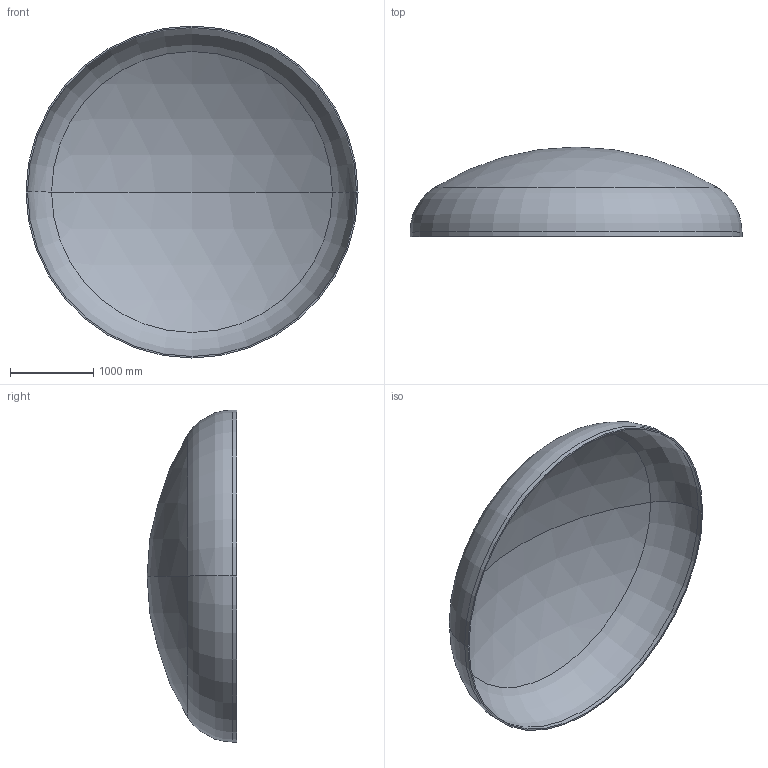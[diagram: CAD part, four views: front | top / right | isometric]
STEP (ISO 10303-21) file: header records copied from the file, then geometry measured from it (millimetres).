
FILE_DESCRIPTION (( 'STEP AP203' ), '1' );
FILE_NAME ('DIN 28013 Korbbogenform_-_Boden DIN 28013 - 4000 x 55 - I - s=18.step', '2016-07-01T22:06:19', ( '' ), ( '' ), 'SwSTEP 2.0', 'SolidWorks 2013', '' );
FILE_SCHEMA (( 'CONFIG_CONTROL_DESIGN' ));
Length unit declared in the file: millimetre
Products named in the file (1): DIN 28013 Korbbogenform_-_Boden DIN 28013 - 4000 x 55 - I - s=18
Bounding box: 4000 x 1079.02 x 4000 mm (x, y, z)
Volume: 323717855.2 mm3; surface area: 36194491.6 mm2
Topology: 1 solids, 1 shells, 13 faces, 24 edges, 14 vertices
Faces by surface type: torus 4, cylinder 4, sphere 4, plane 1
Entity records: 407 total; most frequent: DIRECTION 72, CARTESIAN_POINT 52, ORIENTED_EDGE 48, AXIS2_PLACEMENT_3D 34, EDGE_CURVE 24, CIRCLE 20, VERTEX_POINT 14, EDGE_LOOP 14
